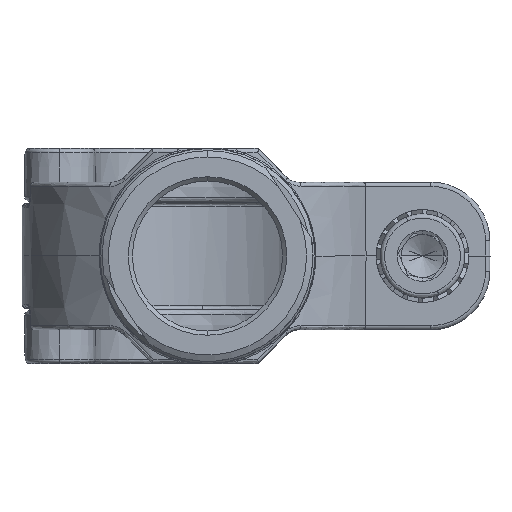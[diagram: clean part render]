
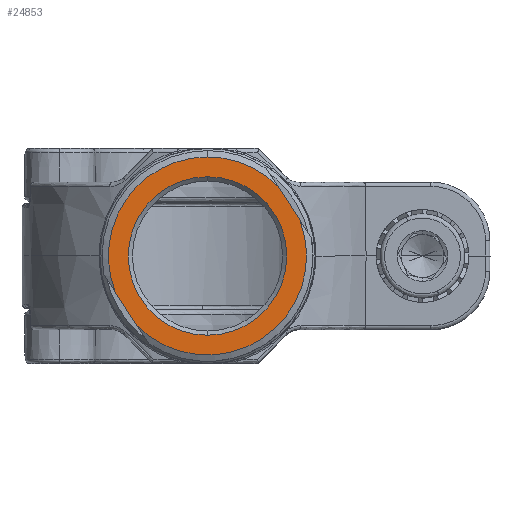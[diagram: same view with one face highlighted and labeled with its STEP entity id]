
A CAD part, front view. The second image highlights one B-rep face of the part: STEP entity #24853.
In plain terms, the highlighted planar face has unit normal (0, -1, 0).
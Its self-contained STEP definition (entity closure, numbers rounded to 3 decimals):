
#345 = PLANE ( 'NONE',  #10704 ) ;
#410 = VERTEX_POINT ( 'NONE', #9618 ) ;
#527 = AXIS2_PLACEMENT_3D ( 'NONE', #14653, #14623, #14557 ) ;
#1837 = CARTESIAN_POINT ( 'NONE',  ( 0., 8., 9.4 ) ) ;
#2641 = EDGE_CURVE ( 'NONE', #6151, #9857, #20791, .T. ) ;
#2843 = EDGE_CURVE ( 'NONE', #28708, #17000, #20013, .T. ) ;
#2893 = EDGE_CURVE ( 'NONE', #17000, #18940, #19839, .T. ) ;
#2979 = EDGE_CURVE ( 'NONE', #9857, #6151, #19424, .T. ) ;
#5034 = EDGE_CURVE ( 'NONE', #26137, #410, #9964, .T. ) ;
#5311 = EDGE_CURVE ( 'NONE', #18940, #26137, #7331, .T. ) ;
#5441 = EDGE_CURVE ( 'NONE', #410, #28708, #5476, .T. ) ;
#5463 = AXIS2_PLACEMENT_3D ( 'NONE', #9228, #9192, #9165 ) ;
#5476 = LINE ( 'NONE', #6090, #12787 ) ;
#6032 = FACE_BOUND ( 'NONE', #13695, .T. ) ;
#6090 = CARTESIAN_POINT ( 'NONE',  ( -9.627, 8., -6.29 ) ) ;
#6114 = DIRECTION ( 'NONE',  ( 0.547, 0., -0.837 ) ) ;
#6151 = VERTEX_POINT ( 'NONE', #1837 ) ;
#6170 = AXIS2_PLACEMENT_3D ( 'NONE', #25214, #25184, #25173 ) ;
#6259 = AXIS2_PLACEMENT_3D ( 'NONE', #26594, #26567, #26563 ) ;
#6631 = AXIS2_PLACEMENT_3D ( 'NONE', #28284, #28259, #28222 ) ;
#7331 = CIRCLE ( 'NONE', #5463, 11.75 ) ;
#7841 = CARTESIAN_POINT ( 'NONE',  ( 10.946, 8., 4.272 ) ) ;
#9165 = DIRECTION ( 'NONE',  ( 0., 0., 1. ) ) ;
#9192 = DIRECTION ( 'NONE',  ( 0., -1., 0. ) ) ;
#9228 = CARTESIAN_POINT ( 'NONE',  ( 0., 8., 0. ) ) ;
#9490 = CARTESIAN_POINT ( 'NONE',  ( 16.131, 8., -3.665 ) ) ;
#9618 = CARTESIAN_POINT ( 'NONE',  ( -10.946, 8., -4.272 ) ) ;
#9857 = VERTEX_POINT ( 'NONE', #14043 ) ;
#9964 = CIRCLE ( 'NONE', #527, 11.75 ) ;
#10021 = CARTESIAN_POINT ( 'NONE',  ( -8.309, 8., -8.308 ) ) ;
#10704 = AXIS2_PLACEMENT_3D ( 'NONE', #9490, #25341, #11636 ) ;
#11636 = DIRECTION ( 'NONE',  ( -0.547, 0., 0.837 ) ) ;
#12787 = VECTOR ( 'NONE', #6114, 1000. ) ;
#13695 = EDGE_LOOP ( 'NONE', ( #15113, #20969 ) ) ;
#14043 = CARTESIAN_POINT ( 'NONE',  ( 0., 8., -9.4 ) ) ;
#14238 = CARTESIAN_POINT ( 'NONE',  ( 0., 8., 11.75 ) ) ;
#14557 = DIRECTION ( 'NONE',  ( 0., 0., 1. ) ) ;
#14623 = DIRECTION ( 'NONE',  ( 0., -1., 0. ) ) ;
#14653 = CARTESIAN_POINT ( 'NONE',  ( 0., 8., 0. ) ) ;
#15113 = ORIENTED_EDGE ( 'NONE', *, *, #2979, .F. ) ;
#15168 = ORIENTED_EDGE ( 'NONE', *, *, #5034, .T. ) ;
#17000 = VERTEX_POINT ( 'NONE', #7841 ) ;
#17737 = EDGE_LOOP ( 'NONE', ( #21057, #21084, #15168, #21169, #21220 ) ) ;
#18309 = FACE_OUTER_BOUND ( 'NONE', #17737, .T. ) ;
#18940 = VERTEX_POINT ( 'NONE', #20769 ) ;
#19424 = CIRCLE ( 'NONE', #6170, 9.4 ) ;
#19648 = VECTOR ( 'NONE', #25952, 1000. ) ;
#19839 = LINE ( 'NONE', #26791, #19648 ) ;
#20013 = CIRCLE ( 'NONE', #6259, 11.75 ) ;
#20769 = CARTESIAN_POINT ( 'NONE',  ( 8.309, 8., 8.308 ) ) ;
#20791 = CIRCLE ( 'NONE', #6631, 9.4 ) ;
#20969 = ORIENTED_EDGE ( 'NONE', *, *, #2641, .F. ) ;
#21057 = ORIENTED_EDGE ( 'NONE', *, *, #2893, .T. ) ;
#21084 = ORIENTED_EDGE ( 'NONE', *, *, #5311, .T. ) ;
#21169 = ORIENTED_EDGE ( 'NONE', *, *, #5441, .T. ) ;
#21220 = ORIENTED_EDGE ( 'NONE', *, *, #2843, .T. ) ;
#24853 = ADVANCED_FACE ( 'NONE', ( #6032, #18309 ), #345, .T. ) ;
#25173 = DIRECTION ( 'NONE',  ( 0., 0., -1. ) ) ;
#25184 = DIRECTION ( 'NONE',  ( 0., -1., 0. ) ) ;
#25214 = CARTESIAN_POINT ( 'NONE',  ( 0., 8., 0. ) ) ;
#25341 = DIRECTION ( 'NONE',  ( 0., -1., 0. ) ) ;
#25952 = DIRECTION ( 'NONE',  ( -0.547, 0., 0.837 ) ) ;
#26137 = VERTEX_POINT ( 'NONE', #14238 ) ;
#26563 = DIRECTION ( 'NONE',  ( 0., 0., 1. ) ) ;
#26567 = DIRECTION ( 'NONE',  ( 0., -1., 0. ) ) ;
#26594 = CARTESIAN_POINT ( 'NONE',  ( 0., 8., 0. ) ) ;
#26791 = CARTESIAN_POINT ( 'NONE',  ( 9.627, 8., 6.29 ) ) ;
#28222 = DIRECTION ( 'NONE',  ( 0., 0., -1. ) ) ;
#28259 = DIRECTION ( 'NONE',  ( 0., -1., 0. ) ) ;
#28284 = CARTESIAN_POINT ( 'NONE',  ( 0., 8., 0. ) ) ;
#28708 = VERTEX_POINT ( 'NONE', #10021 ) ;
